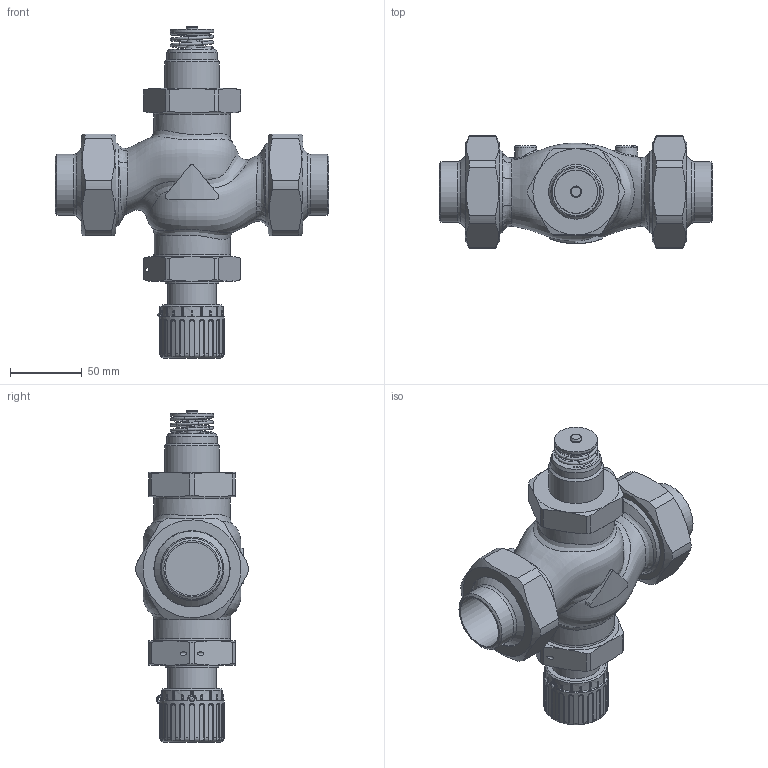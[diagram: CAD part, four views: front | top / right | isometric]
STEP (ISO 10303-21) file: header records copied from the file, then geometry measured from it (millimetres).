
FILE_DESCRIPTION(/* description */ (''),/* implementation_level */ '2;1');
FILE_NAME(/* name */ 'rv122p_dn32_W.stp',/* time_stamp */ '2012-11-05T15:39:09+01:00',/* author */ ('JENIK'),/* organization */ ('LDM'),/* preprocessor_version */ 'ST-DEVELOPER v11',/* originating_system */ 'SIEMENS PLM Software NX 7.0',/* authorisation */ '');
FILE_SCHEMA (('CONFIG_CONTROL_DESIGN'));
Length unit declared in the file: millimetre
Products named in the file (1): jeniA85B0dqj
Bounding box: 190 x 77.97 x 230.8 mm (x, y, z)
Volume: 129534.7 mm3; surface area: 116370.5 mm2
Topology: 6 solids, 7 shells, 597 faces, 1480 edges, 913 vertices
Faces by surface type: cylinder 216, plane 155, bspline 99, torus 72, cone 54, sphere 1
Full cylindrical faces by diameter (mm): 2 x1, 2.5 x1, 8 x2, 24.5 x1, 30 x1, 33.8 x1, 35 x1, 37 x1, 37.2 x2, 38 x1, 42.4 x2, 43 x1, 44 x2, 52.6 x2, 53 x4, 56 x2, 56.2 x2, 56.656 x2, 59.614 x2
Entity records: 29708 total; most frequent: CARTESIAN_POINT 16985, ORIENTED_EDGE 2684, DIRECTION 2440, EDGE_CURVE 1342, AXIS2_PLACEMENT_3D 1028, VERTEX_POINT 864, EDGE_LOOP 720, ADVANCED_FACE 597
